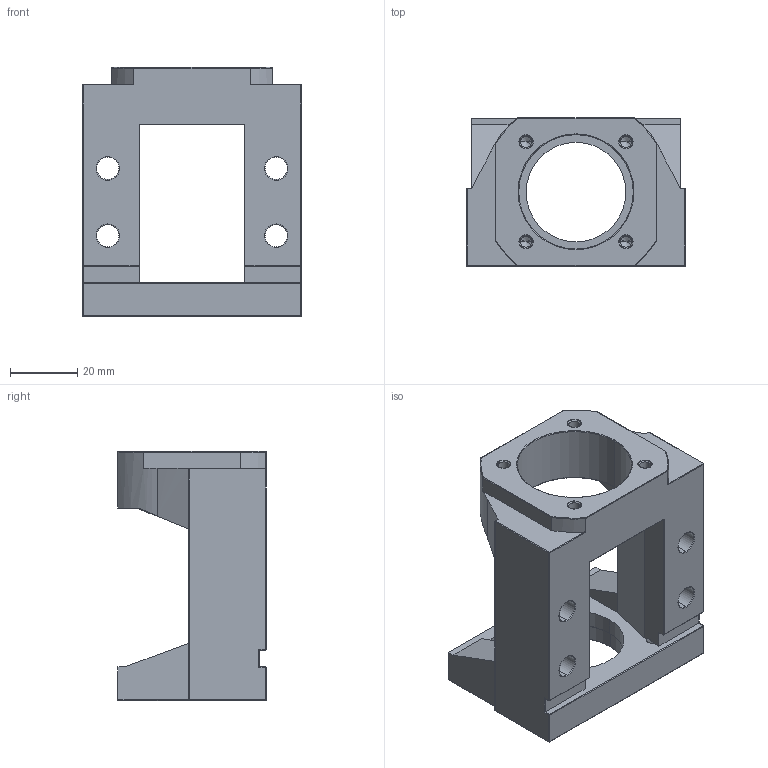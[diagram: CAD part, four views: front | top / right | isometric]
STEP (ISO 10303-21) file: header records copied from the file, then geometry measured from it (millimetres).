
FILE_DESCRIPTION (( 'STEP AP203' ), '1' );
FILE_NAME ('MBA10-B.STEP', '2017-12-28T05:59:03', ( '' ), ( '' ), 'SwSTEP 2.0', 'SolidWorks 2017', '' );
FILE_SCHEMA (( 'CONFIG_CONTROL_DESIGN' ));
Length unit declared in the file: millimetre
Products named in the file (1): MBA10-B
Bounding box: 65 x 44 x 74 mm (x, y, z)
Volume: 78337.1 mm3; surface area: 24126 mm2
Topology: 1 solids, 1 shells, 210 faces, 519 edges, 292 vertices
Faces by surface type: cylinder 89, plane 39, torus 38, cone 28, sphere 12, bspline 4
Entity records: 6229 total; most frequent: CARTESIAN_POINT 1269, DIRECTION 1091, ORIENTED_EDGE 990, EDGE_CURVE 495, AXIS2_PLACEMENT_3D 437, VERTEX_POINT 292, EDGE_LOOP 237, CIRCLE 230
